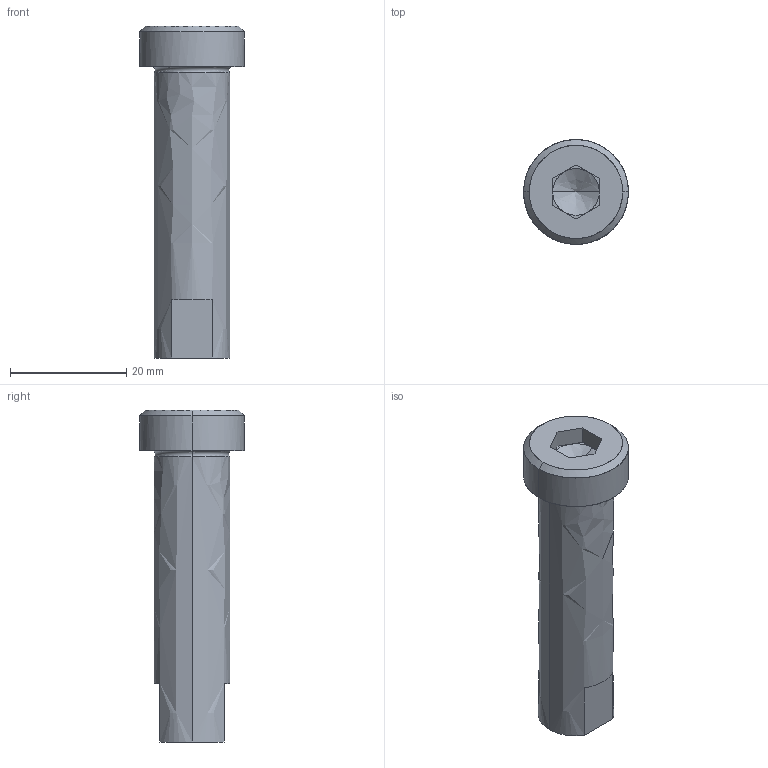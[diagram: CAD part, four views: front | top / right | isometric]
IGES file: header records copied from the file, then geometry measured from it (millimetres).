
Global section: file name: E:\UnigraphicsGraphicData\MISUMI_PRESS-PARTS\IGES\3d_sbtn13-50_00142_r00.igs; native system: NX V5.0; preprocessor: UGS NX IGES V5.0; author: MISUMI; date: 20110105.162506; units: millimetre
Bounding box: 18 x 18 x 57 mm (x, y, z)
Surface area: 3313.4 mm2 (no closed solid volume)
Topology: 0 solids, 0 shells, 38 faces, 212 edges, 208 vertices
Faces by surface type: bspline 38
